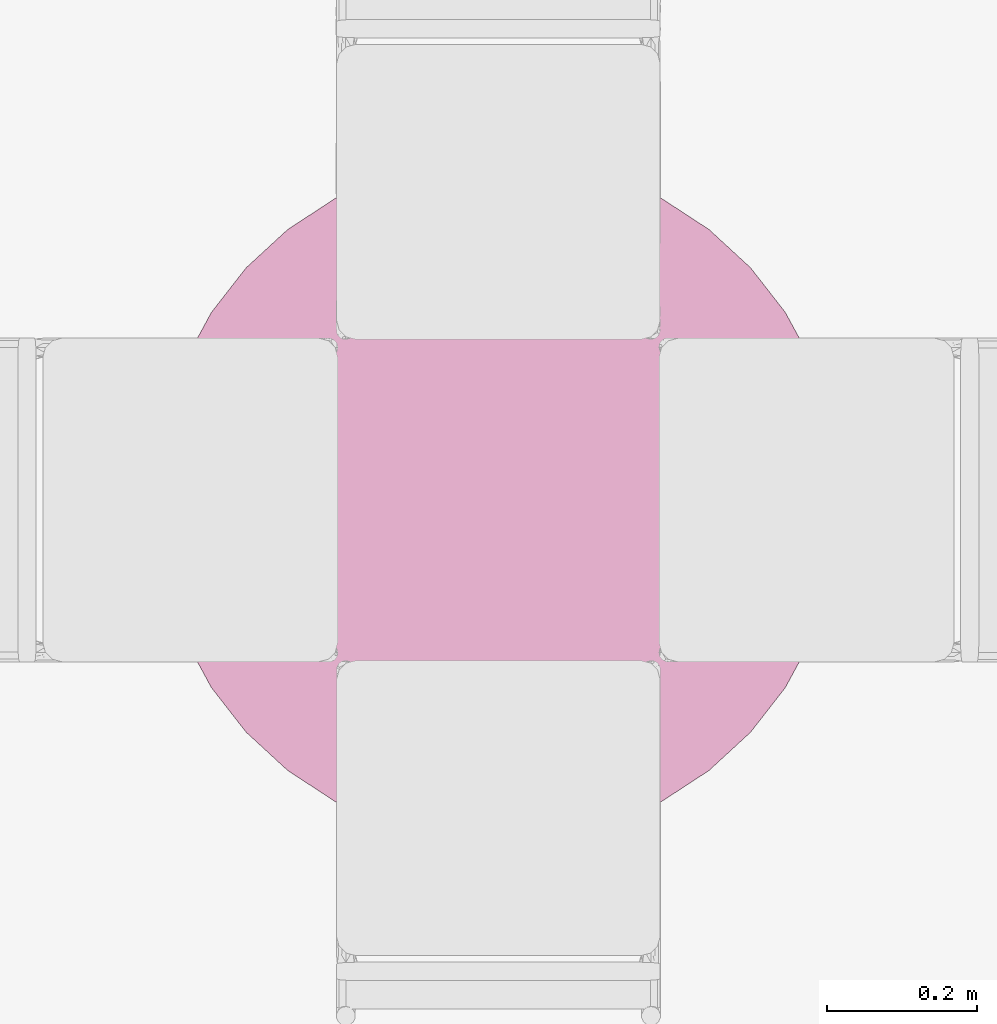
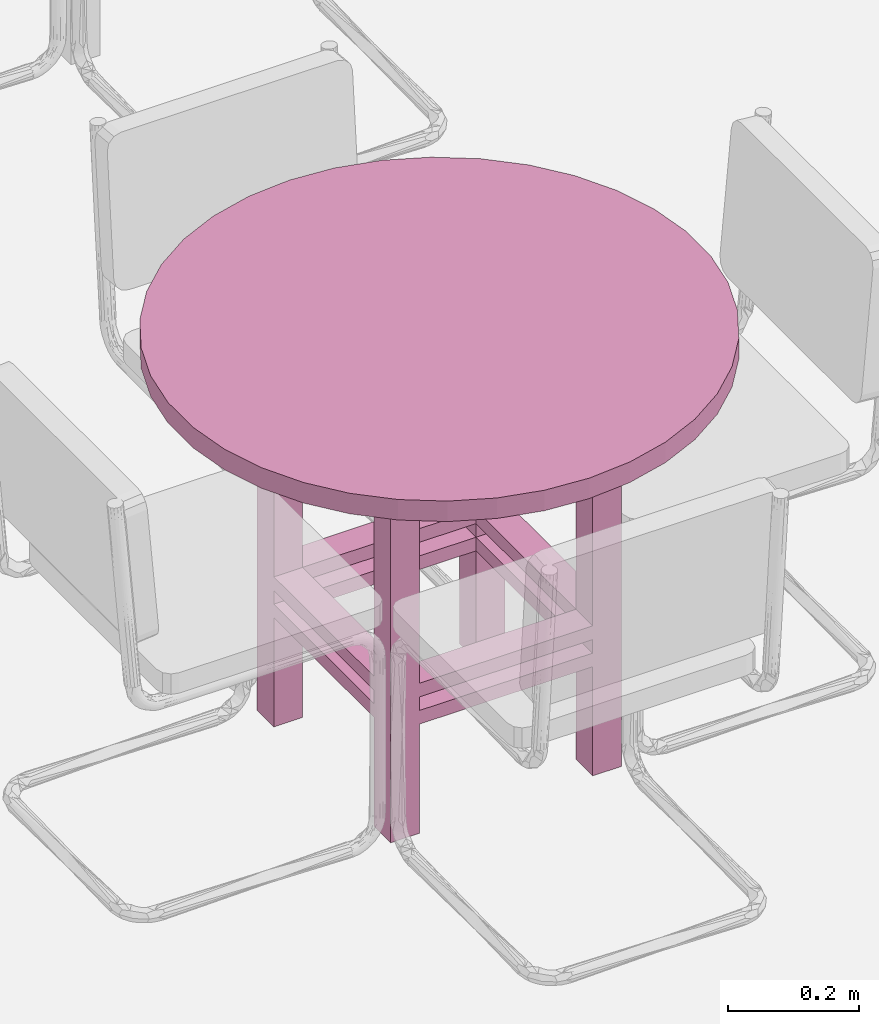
# One storey, part 6 of 11: 1 furnishing.
"""IFC2X3 building model written with IfcOpenShell, lengths in metres."""

from ifc_helpers import new_model, entity, si_unit, converted_unit, derived_unit, direction, frame, origin, place, context, subcontext, project, spatial, faceted_brep, source, transform, mapped, material, material_list, type_object, type_shapes, element, save


model = new_model("IFC2X3")

# Units and contexts
model_context = context("Model", 3, precision=1e-05, world=origin(), true_north=direction((6.12303176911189e-17, 1.0)))
body_context = subcontext(model_context, "Body", "Model", "MODEL_VIEW")
ifc_project = project(units=[si_unit("LENGTHUNIT", "METRE"), si_unit("AREAUNIT", "SQUARE_METRE"), si_unit("VOLUMEUNIT", "CUBIC_METRE"), converted_unit("PLANEANGLEUNIT", "DEGREE", entity("IfcRatioMeasure", 0.0174532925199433), si_unit("PLANEANGLEUNIT", "RADIAN"), dimensions=[0, 0, 0, 0, 0, 0, 0]), si_unit("MASSUNIT", "GRAM", prefix="KILO"), derived_unit("MASSDENSITYUNIT", [(si_unit("MASSUNIT", "GRAM", prefix="KILO"), 1), (si_unit("LENGTHUNIT", "METRE"), -3)]), derived_unit("MOMENTOFINERTIAUNIT", [(si_unit("LENGTHUNIT", "METRE"), 4)]), si_unit("TIMEUNIT", "SECOND"), si_unit("FREQUENCYUNIT", "HERTZ"), si_unit("THERMODYNAMICTEMPERATUREUNIT", "DEGREE_CELSIUS"), derived_unit("THERMALTRANSMITTANCEUNIT", [(si_unit("MASSUNIT", "GRAM", prefix="KILO"), 1), (si_unit("THERMODYNAMICTEMPERATUREUNIT", "KELVIN"), -1), (si_unit("TIMEUNIT", "SECOND"), -3)]), derived_unit("VOLUMETRICFLOWRATEUNIT", [(si_unit("LENGTHUNIT", "METRE"), 3), (si_unit("TIMEUNIT", "SECOND"), -1)]), si_unit("ELECTRICCURRENTUNIT", "AMPERE"), si_unit("ELECTRICVOLTAGEUNIT", "VOLT"), si_unit("POWERUNIT", "WATT"), si_unit("FORCEUNIT", "NEWTON", prefix="KILO"), si_unit("ILLUMINANCEUNIT", "LUX"), si_unit("LUMINOUSFLUXUNIT", "LUMEN"), si_unit("LUMINOUSINTENSITYUNIT", "CANDELA"), derived_unit("USERDEFINED", [(si_unit("MASSUNIT", "GRAM", prefix="KILO"), -1), (si_unit("LENGTHUNIT", "METRE"), -2), (si_unit("TIMEUNIT", "SECOND"), 3), (si_unit("LUMINOUSFLUXUNIT", "LUMEN"), 1)]), derived_unit("LINEARVELOCITYUNIT", [(si_unit("LENGTHUNIT", "METRE"), 1), (si_unit("TIMEUNIT", "SECOND"), -1)]), si_unit("PRESSUREUNIT", "PASCAL"), derived_unit("USERDEFINED", [(si_unit("LENGTHUNIT", "METRE"), -2), (si_unit("MASSUNIT", "GRAM", prefix="KILO"), 1), (si_unit("TIMEUNIT", "SECOND"), -2)]), derived_unit("LINEARFORCEUNIT", [(si_unit("MASSUNIT", "GRAM", prefix="KILO"), 1), (si_unit("LENGTHUNIT", "METRE"), 1), (si_unit("TIMEUNIT", "SECOND"), -2), (si_unit("LENGTHUNIT", "METRE"), -1)]), derived_unit("PLANARFORCEUNIT", [(si_unit("MASSUNIT", "GRAM", prefix="KILO"), 1), (si_unit("LENGTHUNIT", "METRE"), 1), (si_unit("TIMEUNIT", "SECOND"), -2), (si_unit("LENGTHUNIT", "METRE"), -2)])], contexts=[model_context])

# Site, building, storey
site_placement = place(None, origin())
site = spatial("IfcSite", under=ifc_project, at=site_placement, Name="Default", CompositionType="ELEMENT")
building_placement = place(site_placement, origin())
building = spatial("IfcBuilding", under=site, at=building_placement, CompositionType="ELEMENT")
storey_placement = place(building_placement, origin())
storey = spatial("IfcBuildingStorey", under=building, at=storey_placement, Name="Nivel 1", CompositionType="ELEMENT", Elevation=0.0)

# Furnishing
ifc_material_1 = material(Name="Pine")
ifc_material_2 = material(Name="Laminate, Linen, Matte")
ifc_material_list_1 = material_list([ifc_material_1, ifc_material_2])
ifc_material_list_2 = material_list([ifc_material_2, ifc_material_1])
furniture_type = type_object("IfcFurnitureType", Name="M_Table-Dining Round w Chairs:0915mm Diameter", material=ifc_material_list_2)
shared_shape = source(origin(), body_context, "Body", "Brep", [
    faceted_brep([(0.256231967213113, 0.0184713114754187, 0.6477), (0.256231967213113, -0.0323286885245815, 0.6477), (0.307031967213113, -0.0323286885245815, 0.6477), (0.307031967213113, 0.0184713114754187, 0.6477), (-0.0488680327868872, 0.0184713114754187, 0.0), (-0.0488680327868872, -0.0323286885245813, 0.0), (-0.0996680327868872, -0.0323286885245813, 0.0), (-0.0996680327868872, 0.0184713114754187, 0.0), (-0.0996680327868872, 0.0184713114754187, 0.6477), (-0.0488680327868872, 0.0184713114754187, 0.6477), (-0.0488680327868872, 0.0184713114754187, 0.2794), (0.256231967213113, 0.0184713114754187, 0.2794), (0.307031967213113, 0.0184713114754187, 0.0), (0.256231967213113, 0.0184713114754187, 0.0), (0.256231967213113, 0.0184713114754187, 0.2032), (-0.0488680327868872, 0.0184713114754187, 0.2032), (0.256231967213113, 0.0184713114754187, 0.2286), (0.256231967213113, 0.0184713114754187, 0.254), (-0.0488680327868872, 0.0184713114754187, 0.254), (-0.0488680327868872, 0.0184713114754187, 0.2286), (-0.0996680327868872, -0.0323286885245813, 0.6477), (-0.0996680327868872, -0.0323286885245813, 0.2032), (-0.0996680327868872, -0.337428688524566, 0.2032), (-0.0996680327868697, -0.337428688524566, 0.0), (-0.0996680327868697, -0.388228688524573, 0.0), (-0.0996680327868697, -0.388228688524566, 0.6477), (-0.0996680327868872, -0.337428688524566, 0.6477), (-0.0996680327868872, -0.337428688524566, 0.2794), (-0.0996680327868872, -0.0323286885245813, 0.2794), (-0.0996680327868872, -0.0323286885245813, 0.2286), (-0.0996680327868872, -0.0323286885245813, 0.254), (-0.0996680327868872, -0.337428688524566, 0.254), (-0.0996680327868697, -0.337428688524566, 0.2286), (-0.0488680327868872, -0.0323286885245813, 0.6477), (-0.0488680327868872, -0.0323286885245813, 0.2794), (0.256231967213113, -0.0323286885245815, 0.2794), (0.307031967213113, -0.0323286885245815, 0.2794), (0.307031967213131, -0.337428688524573, 0.2794), (0.307031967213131, -0.337428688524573, 0.6477), (0.307031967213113, -0.388228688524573, 0.6477), (0.307031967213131, -0.388228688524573, 0.0), (0.307031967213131, -0.337428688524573, 0.0), (0.307031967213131, -0.337428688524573, 0.2032), (0.307031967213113, -0.0323286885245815, 0.2032), (0.307031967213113, -0.0323286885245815, 0.0), (0.307031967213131, -0.337428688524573, 0.2286), (0.307031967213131, -0.337428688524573, 0.254), (0.307031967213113, -0.0323286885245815, 0.254), (0.307031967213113, -0.0323286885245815, 0.2286), (0.256231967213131, -0.388228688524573, 0.6477), (0.256231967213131, -0.388228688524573, 0.2794), (-0.0488680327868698, -0.388228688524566, 0.2794), (-0.0488680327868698, -0.388228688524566, 0.6477), (-0.0488680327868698, -0.388228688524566, 0.0), (-0.0488680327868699, -0.388228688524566, 0.2032), (0.256231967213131, -0.388228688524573, 0.2032), (0.256231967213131, -0.388228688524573, 0.0), (-0.0488680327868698, -0.388228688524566, 0.2286), (-0.0488680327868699, -0.388228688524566, 0.254), (0.256231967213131, -0.388228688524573, 0.254), (0.256231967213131, -0.388228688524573, 0.2286), (0.256231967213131, -0.337428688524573, 0.6477), (0.256231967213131, -0.337428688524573, 0.2794), (-0.0488680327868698, -0.337428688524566, 0.6477), (-0.0488680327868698, -0.337428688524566, 0.2794), (0.256231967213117, -0.0323286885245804, 0.2286), (0.256231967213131, -0.337428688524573, 0.2286), (-0.0488680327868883, -0.0323286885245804, 0.2032), (-0.0488680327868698, -0.337428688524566, 0.2032), (0.256231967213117, -0.0323286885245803, 0.2032), (0.256231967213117, -0.337428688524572, 0.2032), (-0.0488680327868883, -0.337428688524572, 0.2286), (-0.0488680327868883, -0.0323286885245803, 0.2286), (-0.0488680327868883, -0.0323286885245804, 0.254), (-0.0488680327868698, -0.337428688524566, 0.254), (0.256231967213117, -0.0323286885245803, 0.254), (0.256231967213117, -0.337428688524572, 0.254), (-0.0488680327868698, -0.337428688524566, 0.0), (0.256231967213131, -0.337428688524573, 0.0), (0.256231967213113, -0.0323286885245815, 0.0)], [[[0, 1, 2, 3]], [[4, 5, 6, 7]], [[8, 9, 10, 11, 0, 3, 12, 13, 14, 15, 4, 7], [16, 17, 18, 19]], [[20, 8, 7, 6, 21, 22, 23, 24, 25, 26, 27, 28], [29, 30, 31, 32]], [[33, 20, 28, 34]], [[9, 33, 34, 10]], [[1, 0, 11, 35]], [[2, 1, 35, 36]], [[12, 3, 2, 36, 37, 38, 39, 40, 41, 42, 43, 44], [45, 46, 47, 48]], [[40, 39, 49, 50, 51, 52, 25, 24, 53, 54, 55, 56], [57, 58, 59, 60]], [[61, 38, 37, 62]], [[49, 61, 62, 50]], [[63, 52, 51, 64]], [[26, 63, 64, 27]], [[65, 66, 45, 48]], [[67, 68, 22, 21]], [[66, 65, 69, 70]], [[71, 66, 70, 68]], [[72, 71, 68, 67]], [[65, 72, 67, 69]], [[35, 62, 37, 36]], [[73, 74, 31, 30]], [[62, 35, 75, 76]], [[64, 62, 76, 74]], [[34, 64, 74, 73]], [[35, 34, 73, 75]], [[74, 76, 59, 58]], [[75, 73, 18, 17]], [[76, 75, 47, 46]], [[62, 64, 51, 50]], [[64, 34, 28, 27]], [[34, 35, 11, 10]], [[68, 70, 55, 54]], [[69, 67, 15, 14]], [[70, 69, 43, 42]], [[66, 71, 57, 60]], [[71, 72, 29, 32]], [[72, 65, 16, 19]], [[71, 32, 31, 74]], [[77, 23, 22, 68]], [[57, 71, 74, 58]], [[53, 77, 68, 54]], [[66, 60, 59, 76]], [[78, 56, 55, 70]], [[45, 66, 76, 46]], [[41, 78, 70, 42]], [[65, 48, 47, 75]], [[79, 44, 43, 69]], [[16, 65, 75, 17]], [[13, 79, 69, 14]], [[72, 19, 18, 73]], [[5, 4, 15, 67]], [[29, 72, 73, 30]], [[6, 5, 67, 21]], [[53, 24, 23, 77]], [[13, 12, 44, 79]], [[56, 78, 41, 40]], [[49, 39, 38, 61]], [[52, 63, 26, 25]], [[9, 8, 20, 33]]]),
    faceted_brep([(0.332431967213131, 0.0438713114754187, 0.7239), (-0.125068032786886, 0.0438713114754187, 0.7239), (-0.125068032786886, -0.413628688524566, 0.7239), (0.332431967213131, -0.413628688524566, 0.7239), (0.307031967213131, 0.0184713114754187, 0.7239), (0.307031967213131, -0.388228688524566, 0.7239), (-0.0996680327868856, -0.388228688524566, 0.7239), (-0.0996680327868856, 0.0184713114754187, 0.7239), (0.332431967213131, 0.0438713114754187, 0.6477), (0.332431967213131, -0.413628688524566, 0.6477), (-0.125068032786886, -0.413628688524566, 0.6477), (-0.125068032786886, 0.0438713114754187, 0.6477), (0.307031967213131, 0.0184713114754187, 0.6477), (-0.0996680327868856, 0.0184713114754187, 0.6477), (-0.0996680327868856, -0.388228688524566, 0.6477), (0.307031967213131, -0.388228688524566, 0.6477)], [[[0, 1, 2, 3], [4, 5, 6, 7]], [[8, 9, 10, 11], [12, 13, 14, 15]], [[1, 0, 8, 11]], [[2, 1, 11, 10]], [[3, 2, 10, 9]], [[0, 3, 9, 8]], [[5, 4, 12, 15]], [[6, 5, 15, 14]], [[7, 6, 14, 13]], [[4, 7, 13, 12]]]),
    faceted_brep([(-0.27932169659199, -0.435107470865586, 0.723900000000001), (-0.315284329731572, -0.36865434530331, 0.723900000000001), (-0.339818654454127, -0.297188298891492, 0.723900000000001), (-0.352255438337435, -0.222658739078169, 0.723900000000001), (-0.352255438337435, -0.147098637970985, 0.723900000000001), (-0.339818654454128, -0.0725690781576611, 0.723900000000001), (-0.315284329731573, -0.00110303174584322, 0.723900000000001), (-0.279321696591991, 0.0653500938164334, 0.723900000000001), (-0.232911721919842, 0.1249776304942, 0.7239), (-0.177320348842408, 0.176153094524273, 0.7239), (-0.114063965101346, 0.217480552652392, 0.7239), (-0.0448680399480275, 0.247832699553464, 0.7239), (0.0283799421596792, 0.266381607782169, 0.7239), (0.103681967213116, 0.272621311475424, 0.723899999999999), (0.178983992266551, 0.266381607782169, 0.723899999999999), (0.252231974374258, 0.247832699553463, 0.723899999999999), (0.321427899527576, 0.217480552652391, 0.723899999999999), (0.384684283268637, 0.176153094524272, 0.723899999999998), (0.440275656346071, 0.124977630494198, 0.723899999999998), (0.48668563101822, 0.0653500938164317, 0.723899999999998), (0.522648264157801, -0.00110303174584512, 0.723899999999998), (0.547182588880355, -0.072569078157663, 0.723899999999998), (0.559619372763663, -0.147098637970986, 0.723899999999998), (0.559619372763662, -0.22265873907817, 0.723899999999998), (0.547182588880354, -0.297188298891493, 0.723899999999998), (0.522648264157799, -0.368654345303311, 0.723899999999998), (0.486685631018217, -0.435107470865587, 0.723899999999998), (0.440275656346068, -0.494735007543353, 0.723899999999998), (0.384684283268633, -0.545910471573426, 0.723899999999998), (0.321427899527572, -0.587237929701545, 0.723899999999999), (0.252231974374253, -0.617590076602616, 0.723899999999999), (0.178983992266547, -0.636138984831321, 0.723899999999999), (0.103681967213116, -0.642378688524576, 0.723899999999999), (0.0283799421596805, -0.636138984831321, 0.7239), (-0.0448680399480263, -0.617590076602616, 0.7239), (-0.114063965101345, -0.587237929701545, 0.7239), (-0.177320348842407, -0.545910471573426, 0.7239), (-0.232911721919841, -0.494735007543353, 0.7239), (-0.315284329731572, -0.36865434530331, 0.762000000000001), (-0.27932169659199, -0.435107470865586, 0.762000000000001), (-0.232911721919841, -0.494735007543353, 0.762), (-0.177320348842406, -0.545910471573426, 0.762), (-0.114063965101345, -0.587237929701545, 0.762), (-0.0448680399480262, -0.617590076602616, 0.762), (0.0283799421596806, -0.636138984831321, 0.762), (0.103681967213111, -0.642378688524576, 0.761999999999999), (0.178983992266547, -0.636138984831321, 0.761999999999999), (0.252231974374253, -0.617590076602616, 0.761999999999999), (0.321427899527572, -0.587237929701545, 0.761999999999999), (0.384684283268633, -0.545910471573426, 0.761999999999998), (0.440275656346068, -0.494735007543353, 0.761999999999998), (0.486685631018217, -0.435107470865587, 0.761999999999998), (0.522648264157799, -0.368654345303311, 0.761999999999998), (0.547182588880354, -0.297188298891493, 0.761999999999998), (0.559619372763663, -0.22265873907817, 0.761999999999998), (0.559619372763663, -0.147098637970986, 0.761999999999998), (0.547182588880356, -0.072569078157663, 0.761999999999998), (0.522648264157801, -0.00110303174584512, 0.761999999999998), (0.48668563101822, 0.0653500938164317, 0.761999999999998), (0.440275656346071, 0.124977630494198, 0.761999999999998), (0.384684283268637, 0.176153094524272, 0.761999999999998), (0.321427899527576, 0.217480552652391, 0.761999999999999), (0.252231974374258, 0.247832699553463, 0.761999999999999), (0.178983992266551, 0.266381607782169, 0.761999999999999), (0.103681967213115, 0.272621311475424, 0.761999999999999), (0.0283799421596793, 0.266381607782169, 0.762), (-0.0448680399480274, 0.247832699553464, 0.762), (-0.114063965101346, 0.217480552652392, 0.762), (-0.177320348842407, 0.176153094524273, 0.762), (-0.232911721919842, 0.1249776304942, 0.762), (-0.279321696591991, 0.0653500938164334, 0.762000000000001), (-0.315284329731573, -0.00110303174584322, 0.762000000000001), (-0.339818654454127, -0.0725690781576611, 0.762000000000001), (-0.352255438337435, -0.147098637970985, 0.762000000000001), (-0.352255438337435, -0.222658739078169, 0.762000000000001), (-0.339818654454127, -0.297188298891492, 0.762000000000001)], [[[0, 1, 2, 3, 4, 5, 6, 7, 8, 9, 10, 11, 12, 13, 14, 15, 16, 17, 18, 19, 20, 21, 22, 23, 24, 25, 26, 27, 28, 29, 30, 31, 32, 33, 34, 35, 36, 37]], [[38, 39, 40, 41, 42, 43, 44, 45, 46, 47, 48, 49, 50, 51, 52, 53, 54, 55, 56, 57, 58, 59, 60, 61, 62, 63, 64, 65, 66, 67, 68, 69, 70, 71, 72, 73, 74, 75]], [[44, 33, 32, 45]], [[42, 35, 34, 43]], [[34, 33, 44, 43]], [[36, 35, 42, 41]], [[0, 37, 40, 39]], [[75, 74, 3, 2]], [[39, 38, 1, 0]], [[41, 40, 37, 36]], [[1, 38, 75, 2]], [[74, 73, 4, 3]], [[6, 71, 70, 7]], [[4, 73, 72, 5]], [[71, 6, 5, 72]], [[7, 70, 69, 8]], [[66, 65, 12, 11]], [[9, 68, 67, 10]], [[10, 67, 66, 11]], [[69, 68, 9, 8]], [[12, 65, 64, 13]], [[14, 13, 64, 63]], [[16, 15, 62, 61]], [[63, 62, 15, 14]], [[61, 60, 17, 16]], [[57, 56, 21, 20]], [[18, 59, 58, 19]], [[19, 58, 57, 20]], [[59, 18, 17, 60]], [[21, 56, 55, 22]], [[55, 54, 23, 22]], [[25, 52, 51, 26]], [[23, 54, 53, 24]], [[52, 25, 24, 53]], [[26, 51, 50, 27]], [[47, 46, 31, 30]], [[28, 49, 48, 29]], [[29, 48, 47, 30]], [[50, 49, 28, 27]], [[31, 46, 45, 32]]]),
])
type_shapes(furniture_type, [shared_shape])
furnishing_placement = place(storey_placement, frame((1.25798896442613, -5.88530423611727, 0.0), z_axis=(0.0, 0.0, 1.0), x_axis=(-1.0, 0.0, 0.0)))
element("IfcFurnishingElement", 1, at=furnishing_placement, inside=storey, type_object=furniture_type, material=ifc_material_list_1, Name="M_Table-Dining Round w Chairs:0915mm Diameter", ObjectType="M_Table-Dining Round w Chairs:0915mm Diameter", context=body_context, shape_type="MappedRepresentation", body=[
    mapped(shared_shape, transform((0.0, 0.0, 0.0), scale=1.0)),
])

save(model, "model.ifc")
